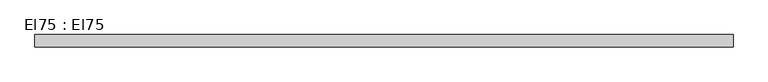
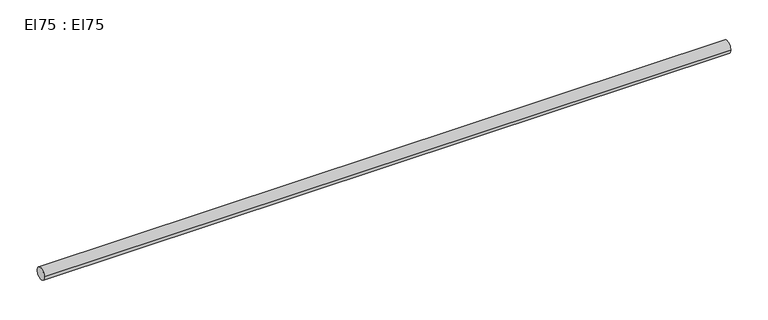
"""IFC4 building model written with IfcOpenShell, lengths in millimetres: cable carrier segment geometry, El75 : El75."""

import ifcopenshell
import ifcopenshell.guid

model = None  # the IFC model being written
_history = None  # IfcOwnerHistory: only IFC2X3 demands one
_inside = {}  # id of a spatial element -> (the spatial element, [elements in it])
_under = {}  # id of a project, library or spatial element -> (it, [spatial elements below it])
_declared = {}  # id of a project -> (the project, [libraries it declares])
_typed = {}  # id of a type object -> (the type object, [elements of that type])
_made_of = {}  # id of a material, layer set ... -> (it, [elements and type objects made of it])


def new_model(schema):
    """Start an empty IFC model of exactly this schema.

    Asked for "IFC4X3", IfcOpenShell would pick the latest addendum, in which some entities
    have other attributes; the version numbers below select the first issue.
    IFC2X3 requires an IfcOwnerHistory on every rooted entity: one is made here for all.
    """
    global model, _history
    if schema == "IFC4X3":
        model = ifcopenshell.file(schema_version=(4, 3, 0, 0))
    else:
        model = ifcopenshell.file(schema=schema)
    _inside.clear()
    _under.clear()
    _declared.clear()
    _typed.clear()
    _made_of.clear()
    _history = None
    if model.schema == "IFC2X3":
        org = make("IfcOrganization", Name="unknown")
        user = make(
            "IfcPersonAndOrganization",
            ThePerson=make("IfcPerson", FamilyName="unknown"),
            TheOrganization=org,
        )
        app = make(
            "IfcApplication",
            ApplicationDeveloper=org,
            Version="unknown",
            ApplicationFullName="unknown",
            ApplicationIdentifier="unknown",
        )
        _history = make(
            "IfcOwnerHistory",
            OwningUser=user,
            OwningApplication=app,
            ChangeAction="ADDED",
            CreationDate=0,
        )
    return model


def make(cls, **values):
    """One entity of the class cls with the attributes given. An attribute that is None is left unset."""
    return model.create_entity(
        cls, **{name: value for name, value in values.items() if value is not None}
    )


def rooted(cls, **values):
    """An entity with a GlobalId (a new one), such as an element, a storey or a relation."""
    return make(cls, GlobalId=ifcopenshell.guid.new(), OwnerHistory=_history, **values)


def si_unit(unit_type, name, prefix=None):
    """IfcSIUnit, for example si_unit("LENGTHUNIT", "METRE", prefix="MILLI")."""
    return make("IfcSIUnit", UnitType=unit_type, Prefix=prefix, Name=name)


def assignment(units):
    """IfcUnitAssignment: the units of a project."""
    return None if units is None else make("IfcUnitAssignment", Units=units)


def point(xyz):
    """IfcCartesianPoint."""
    return None if xyz is None else make("IfcCartesianPoint", Coordinates=xyz)


def direction(xyz):
    """IfcDirection."""
    return None if xyz is None else make("IfcDirection", DirectionRatios=xyz)


def frame(location, z_axis=None, x_axis=None):
    """IfcAxis2Placement3D, a coordinate frame: its origin and axes. An axis left out is left unset."""
    return make(
        "IfcAxis2Placement3D",
        Location=point(location),
        Axis=direction(z_axis),
        RefDirection=direction(x_axis),
    )


def frame_2d(location, x_axis=None):
    """IfcAxis2Placement2D, a coordinate frame in the plane: its origin and x axis."""
    return make(
        "IfcAxis2Placement2D", Location=point(location), RefDirection=direction(x_axis)
    )


def origin():
    """The frame at (0, 0, 0) with its axes left unset."""
    return frame((0.0, 0.0, 0.0))


def place(relative_to, where):
    """IfcLocalPlacement: puts the frame where relative to a parent placement (None: the world)."""
    return make(
        "IfcLocalPlacement", PlacementRelTo=relative_to, RelativePlacement=where
    )


def context(
    kind, dimensions, precision=None, world=None, true_north=None, identifier=None
):
    """IfcGeometricRepresentationContext, for example the 3D "Model" context."""
    return make(
        "IfcGeometricRepresentationContext",
        ContextIdentifier=identifier,
        ContextType=kind,
        CoordinateSpaceDimension=dimensions,
        Precision=precision,
        WorldCoordinateSystem=world,
        TrueNorth=true_north,
    )


def project(units=None, contexts=None):
    """IfcProject with its units and contexts."""
    return rooted(
        "IfcProject",
        Name="project",
        RepresentationContexts=contexts,
        UnitsInContext=assignment(units),
    )


def spatial(cls, under=None, at=None, **own):
    """A site, building, storey or space (cls), placed at a placement, below another one or the project."""
    s = rooted(cls, ObjectPlacement=at, **own)
    if under is not None:
        _under.setdefault(under.id(), (under, []))[1].append(s)
    return s


def circle_curve(where, radius):
    """IfcCircle in the frame where."""
    return make("IfcCircle", Position=where, Radius=radius)


def trimmed(basis, trim1, trim2, sense, master):
    """IfcTrimmedCurve: the piece of a basis curve between two trims."""
    return make(
        "IfcTrimmedCurve",
        BasisCurve=basis,
        Trim1=trim1,
        Trim2=trim2,
        SenseAgreement=sense,
        MasterRepresentation=master,
    )


def segment(curve, same_sense, transition):
    """IfcCompositeCurveSegment."""
    return make(
        "IfcCompositeCurveSegment",
        Transition=transition,
        SameSense=same_sense,
        ParentCurve=curve,
    )


def composite_curve(segments, self_intersect=None):
    """IfcCompositeCurve: segments joined end to end."""
    return make("IfcCompositeCurve", Segments=segments, SelfIntersect=self_intersect)


def outline(outer, holes=None, kind="AREA"):
    """IfcArbitraryClosedProfileDef: a profile drawn as a closed curve; with holes, ...WithVoids."""
    if holes is None:
        return make("IfcArbitraryClosedProfileDef", ProfileType=kind, OuterCurve=outer)
    return make(
        "IfcArbitraryProfileDefWithVoids",
        ProfileType=kind,
        OuterCurve=outer,
        InnerCurves=holes,
    )


def extrude(swept, where, along, depth):
    """IfcExtrudedAreaSolid: the profile swept, set in the frame where, extruded along a direction by depth."""
    return make(
        "IfcExtrudedAreaSolid",
        SweptArea=swept,
        Position=where,
        ExtrudedDirection=direction(along),
        Depth=depth,
    )


def shape(context_of_items, identifier, shape_type, items):
    """IfcShapeRepresentation: the items that make up one representation, for example the "Body"."""
    return make(
        "IfcShapeRepresentation",
        ContextOfItems=context_of_items,
        RepresentationIdentifier=identifier,
        RepresentationType=shape_type,
        Items=items,
    )


def source(mapping_origin, context_of_items, identifier, shape_type, items):
    """IfcRepresentationMap: a shape defined once, which mapped items show again and again."""
    return make(
        "IfcRepresentationMap",
        MappingOrigin=mapping_origin,
        MappedRepresentation=shape(context_of_items, identifier, shape_type, items),
    )


def transform(
    local_origin,
    x_axis=None,
    y_axis=None,
    z_axis=None,
    scale=None,
    scale2=None,
    scale3=None,
    uniform=True,
):
    """IfcCartesianTransformationOperator3D, or its non-uniform kind. x_axis, y_axis, z_axis: its Axis1, 2, 3."""
    if uniform:
        return make(
            "IfcCartesianTransformationOperator3D",
            Axis1=direction(x_axis),
            Axis2=direction(y_axis),
            LocalOrigin=point(local_origin),
            Scale=scale,
            Axis3=direction(z_axis),
        )
    return make(
        "IfcCartesianTransformationOperator3DnonUniform",
        Axis1=direction(x_axis),
        Axis2=direction(y_axis),
        LocalOrigin=point(local_origin),
        Scale=scale,
        Axis3=direction(z_axis),
        Scale2=scale2,
        Scale3=scale3,
    )


def mapped(mapping_source, mapping_target):
    """IfcMappedItem: shows the shape of a source again, moved by a transform."""
    return make(
        "IfcMappedItem", MappingSource=mapping_source, MappingTarget=mapping_target
    )


def made_of(thing, what):
    """Note that an element or type object is made of a material, layer set ...; save() writes the relation."""
    if what is not None:
        _made_of.setdefault(what.id(), (what, []))[1].append(thing)
    return thing


def element(
    cls,
    number,
    at=None,
    inside=None,
    cuts=None,
    type_object=None,
    material=None,
    context=None,
    identifier="Body",
    shape_type=None,
    held_by="IfcProductDefinitionShape",
    body=None,
    shapes=None,
    **own,
):
    """One element of the class cls, such as IfcWall. Its Tag is "e" and its number.

    at: its placement. inside: the storey or other place that contains it. cuts: it is an
    opening in that element (IfcRelVoidsElement). A single representation is given by context,
    identifier, shape_type and body (its items); several are given by shapes. held_by: the class
    of the entity that holds the representations. save() writes the other relations.
    """
    e = rooted(cls, Tag="e%d" % number, ObjectPlacement=at, **own)
    if body is not None:
        shapes = [shape(context, identifier, shape_type, body)]
    if shapes is not None:
        e.Representation = make(held_by, Representations=shapes)
    if inside is not None:
        _inside.setdefault(inside.id(), (inside, []))[1].append(e)
    if cuts is not None:
        rooted(
            "IfcRelVoidsElement", RelatingBuildingElement=cuts, RelatedOpeningElement=e
        )
    if type_object is not None:
        _typed.setdefault(type_object.id(), (type_object, []))[1].append(e)
    return made_of(e, material)


def aggregate(whole, parts):
    """IfcRelAggregates: a whole, such as a stair, and the parts it consists of."""
    return rooted("IfcRelAggregates", RelatingObject=whole, RelatedObjects=parts)


def save(model, path):
    """Write the relations noted so far, then the file.

    IfcRelAggregates (storeys below a building ...), IfcRelContainedInSpatialStructure (elements
    in a storey), IfcRelDefinesByType, IfcRelAssociatesMaterial and IfcRelDeclares: one each for
    every whole, place, type object, material and project.
    """
    for whole, parts in _under.values():
        aggregate(whole, parts)
    for where, things in _inside.values():
        rooted(
            "IfcRelContainedInSpatialStructure",
            RelatedElements=things,
            RelatingStructure=where,
        )
    for kind, things in _typed.values():
        rooted("IfcRelDefinesByType", RelatedObjects=things, RelatingType=kind)
    for what, things in _made_of.values():
        rooted("IfcRelAssociatesMaterial", RelatedObjects=things, RelatingMaterial=what)
    for by, libraries in _declared.values():
        rooted("IfcRelDeclares", RelatingContext=by, RelatedDefinitions=libraries)
    model.write(path)


def el75_el75_eebf1159(model_context):
    return source(origin(), model_context, "Body", "SweptSolid", [
        extrude(outline(composite_curve([segment(trimmed(circle_curve(frame_2d((15372.1, 300.0)), 9.5), [point((15362.6, 300.0))], [point((15381.6, 300.0))], False, "CARTESIAN"), True, "CONTINUOUS"), segment(trimmed(circle_curve(frame_2d((15372.1, 300.0)), 9.5), [point((15381.6, 300.0))], [point((15362.6, 300.0))], False, "CARTESIAN"), True, "CONTINUOUS")], self_intersect=False)), frame((17282.138, 0.0, 0.0), z_axis=(1.0, 0.0, 0.0), x_axis=(0.0, 1.0, 0.0)), (0.0, 0.0, 1.0), 1064.12),
    ])


if __name__ == "__main__":
    model = new_model("IFC4")
    model_context = context("Model", 3, world=origin())
    ifc_project = project(units=[si_unit("LENGTHUNIT", "METRE", prefix="MILLI")], contexts=[model_context])
    site = spatial("IfcSite", under=ifc_project)
    building = spatial("IfcBuilding", under=site)
    placement = place(None, origin())
    el75_el75_shape = el75_el75_eebf1159(model_context)
    element("IfcCableCarrierSegment", 1, ObjectType="El75 : El75", at=placement, inside=building, context=model_context, shape_type="MappedRepresentation", body=[
        mapped(el75_el75_shape, transform((0.0, 0.0, 0.0), x_axis=(1.0, 0.0, 0.0), y_axis=(0.0, 1.0, 0.0), z_axis=(0.0, 0.0, 1.0))),
    ])
    save(model, "model.ifc")
